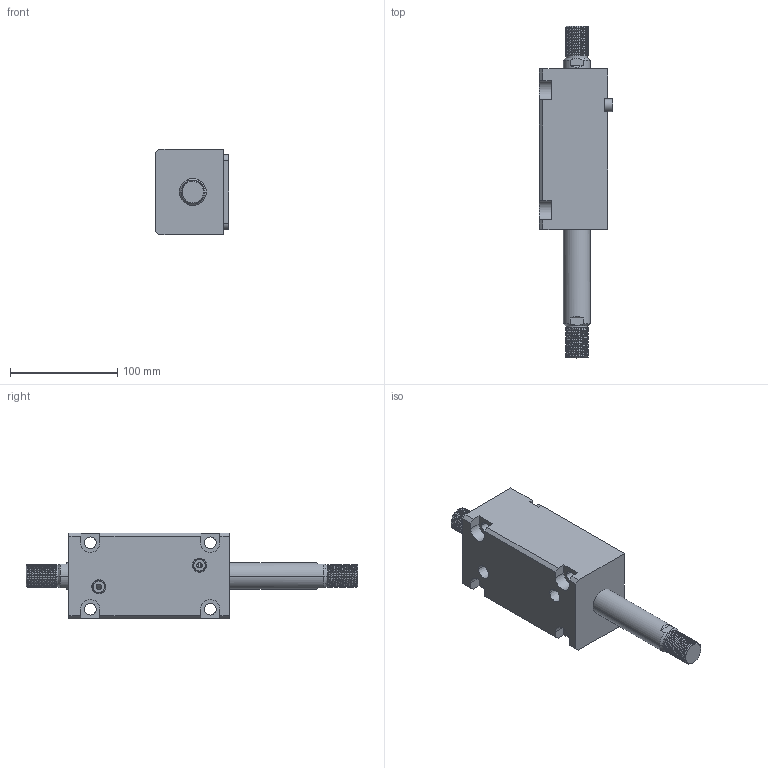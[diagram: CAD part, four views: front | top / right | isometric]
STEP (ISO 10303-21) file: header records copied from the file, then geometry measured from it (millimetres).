
FILE_DESCRIPTION (( 'STEP AP214' ), '1' );
FILE_NAME ('chtb-lw40x80w_asm.STEP', '2018-06-04T10:23:54', ( 'Windows' ), ( 'Microsoft' ), 'SwSTEP 2.0', 'SolidWorks 2015', '' );
FILE_SCHEMA (( 'AUTOMOTIVE_DESIGN' ));
Length unit declared in the file: millimetre
Products named in the file (5): CHTB-SW40X80NHSG; CHTB-SD40QG; CHTB-LW40X80NBT; CHTB-LA40PJ; chtb-lw40x80w_asm
Assembly tree (4 placements, depth 2):
  chtb-lw40x80w_asm
    CHTB-LA40PJ
    CHTB-LW40X80NBT
    CHTB-SD40QG
    CHTB-SW40X80NHSG
Bounding box: 68.5 x 310 x 80 mm (x, y, z)
Volume: 740325.4 mm3; surface area: 122547.5 mm2
Topology: 4 solids, 4 shells, 258 faces, 711 edges, 473 vertices
Faces by surface type: cylinder 152, plane 59, bspline 18, cone 17, torus 12
Entity records: 17539 total; most frequent: CARTESIAN_POINT 11292, ORIENTED_EDGE 1410, DIRECTION 1124, EDGE_CURVE 705, VERTEX_POINT 473, AXIS2_PLACEMENT_3D 433, EDGE_LOOP 292, VECTOR 258
